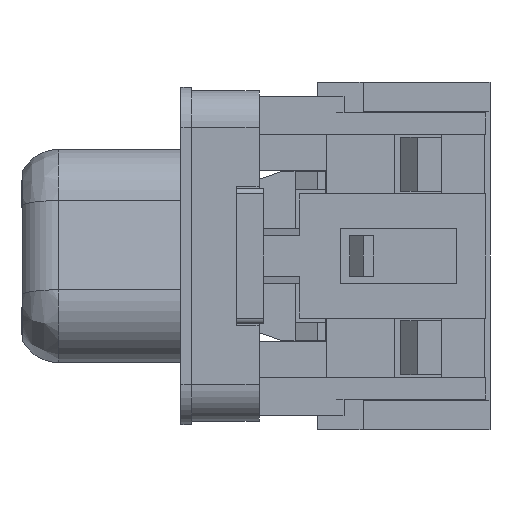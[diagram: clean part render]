
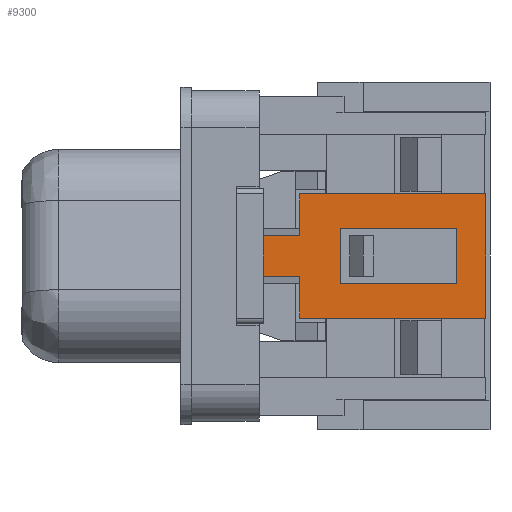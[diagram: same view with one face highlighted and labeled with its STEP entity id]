
A CAD part, left-side view. The second image highlights one B-rep face of the part: STEP entity #9300.
In plain terms, the highlighted planar face has unit normal (-1, 0, 0).
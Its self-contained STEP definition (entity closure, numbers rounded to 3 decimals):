
#1542=DIRECTION('',(0.,-1.,0.));
#1543=VECTOR('',#1542,4.3);
#1544=CARTESIAN_POINT('',(-12.215,-5.5,-1.025));
#1545=LINE('',#1544,#1543);
#1546=DIRECTION('',(0.,0.,1.));
#1547=VECTOR('',#1546,2.05);
#1548=CARTESIAN_POINT('',(-12.215,-9.8,-1.025));
#1549=LINE('',#1548,#1547);
#1550=DIRECTION('',(0.,1.,0.));
#1551=VECTOR('',#1550,4.3);
#1552=CARTESIAN_POINT('',(-12.215,-9.8,1.025));
#1553=LINE('',#1552,#1551);
#1554=DIRECTION('',(0.,0.,-1.));
#1555=VECTOR('',#1554,2.05);
#1556=CARTESIAN_POINT('',(-12.215,-5.5,1.025));
#1557=LINE('',#1556,#1555);
#1570=DIRECTION('',(0.,0.,1.));
#1571=VECTOR('',#1570,1.55);
#1572=CARTESIAN_POINT('',(-12.215,-4.,-2.3));
#1573=LINE('',#1572,#1571);
#1574=DIRECTION('',(0.,-1.,0.));
#1575=VECTOR('',#1574,1.5);
#1576=CARTESIAN_POINT('',(-12.215,-2.5,-0.75));
#1577=LINE('',#1576,#1575);
#1578=DIRECTION('',(0.,0.,1.));
#1579=VECTOR('',#1578,1.5);
#1580=CARTESIAN_POINT('',(-12.215,-2.5,-0.75));
#1581=LINE('',#1580,#1579);
#1582=DIRECTION('',(0.,-1.,0.));
#1583=VECTOR('',#1582,1.5);
#1584=CARTESIAN_POINT('',(-12.215,-2.5,0.75));
#1585=LINE('',#1584,#1583);
#1586=DIRECTION('',(0.,0.,1.));
#1587=VECTOR('',#1586,1.55);
#1588=CARTESIAN_POINT('',(-12.215,-4.,0.75));
#1589=LINE('',#1588,#1587);
#1590=DIRECTION('',(0.,0.,-1.));
#1591=VECTOR('',#1590,4.6);
#1592=CARTESIAN_POINT('',(-12.215,-10.9,2.3));
#1593=LINE('',#1592,#1591);
#1822=DIRECTION('',(0.,1.,0.));
#1823=VECTOR('',#1822,6.9);
#1824=CARTESIAN_POINT('',(-12.215,-10.9,2.3));
#1825=LINE('',#1824,#1823);
#2918=DIRECTION('',(0.,-1.,0.));
#2919=VECTOR('',#2918,6.9);
#2920=CARTESIAN_POINT('',(-12.215,-4.,-2.3));
#2921=LINE('',#2920,#2919);
#6520=CARTESIAN_POINT('',(-12.215,-5.5,-1.025));
#6521=CARTESIAN_POINT('',(-12.215,-9.8,-1.025));
#6522=VERTEX_POINT('',#6520);
#6523=VERTEX_POINT('',#6521);
#6524=CARTESIAN_POINT('',(-12.215,-9.8,1.025));
#6525=VERTEX_POINT('',#6524);
#6526=CARTESIAN_POINT('',(-12.215,-5.5,1.025));
#6527=VERTEX_POINT('',#6526);
#6576=CARTESIAN_POINT('',(-12.215,-4.,0.75));
#6577=CARTESIAN_POINT('',(-12.215,-4.,2.3));
#6578=VERTEX_POINT('',#6576);
#6579=VERTEX_POINT('',#6577);
#6580=CARTESIAN_POINT('',(-12.215,-2.5,0.75));
#6581=VERTEX_POINT('',#6580);
#6582=CARTESIAN_POINT('',(-12.215,-2.5,-0.75));
#6583=CARTESIAN_POINT('',(-12.215,-4.,-0.75));
#6584=VERTEX_POINT('',#6582);
#6585=VERTEX_POINT('',#6583);
#6586=CARTESIAN_POINT('',(-12.215,-4.,-2.3));
#6587=VERTEX_POINT('',#6586);
#7458=CARTESIAN_POINT('',(-12.215,-10.9,2.3));
#7459=CARTESIAN_POINT('',(-12.215,-10.9,-2.3));
#7460=VERTEX_POINT('',#7458);
#7461=VERTEX_POINT('',#7459);
#9269=CARTESIAN_POINT('',(-12.215,-10.9,5.3));
#9270=DIRECTION('',(-1.,0.,0.));
#9271=DIRECTION('',(0.,1.,0.));
#9272=AXIS2_PLACEMENT_3D('',#9269,#9270,#9271);
#9273=PLANE('',#9272);
#9275=ORIENTED_EDGE('',*,*,#9274,.F.);
#9277=ORIENTED_EDGE('',*,*,#9276,.T.);
#9279=ORIENTED_EDGE('',*,*,#9278,.F.);
#9281=ORIENTED_EDGE('',*,*,#9280,.T.);
#9283=ORIENTED_EDGE('',*,*,#9282,.T.);
#9285=ORIENTED_EDGE('',*,*,#9284,.T.);
#9287=ORIENTED_EDGE('',*,*,#9286,.F.);
#9289=ORIENTED_EDGE('',*,*,#9288,.T.);
#9290=EDGE_LOOP('',(#9275,#9277,#9279,#9281,#9283,#9285,#9287,#9289));
#9291=FACE_OUTER_BOUND('',#9290,.F.);
#9292=ORIENTED_EDGE('',*,*,#9124,.T.);
#9294=ORIENTED_EDGE('',*,*,#9293,.T.);
#9296=ORIENTED_EDGE('',*,*,#9295,.T.);
#9297=ORIENTED_EDGE('',*,*,#9228,.T.);
#9298=EDGE_LOOP('',(#9292,#9294,#9296,#9297));
#9299=FACE_BOUND('',#9298,.F.);
#9300=ADVANCED_FACE('',(#9291,#9299),#9273,.T.);
#9124=EDGE_CURVE('',#6522,#6523,#1545,.T.);
#9228=EDGE_CURVE('',#6527,#6522,#1557,.T.);
#9274=EDGE_CURVE('',#6587,#7461,#2921,.T.);
#9276=EDGE_CURVE('',#6587,#6585,#1573,.T.);
#9278=EDGE_CURVE('',#6584,#6585,#1577,.T.);
#9280=EDGE_CURVE('',#6584,#6581,#1581,.T.);
#9282=EDGE_CURVE('',#6581,#6578,#1585,.T.);
#9284=EDGE_CURVE('',#6578,#6579,#1589,.T.);
#9286=EDGE_CURVE('',#7460,#6579,#1825,.T.);
#9288=EDGE_CURVE('',#7460,#7461,#1593,.T.);
#9293=EDGE_CURVE('',#6523,#6525,#1549,.T.);
#9295=EDGE_CURVE('',#6525,#6527,#1553,.T.);
